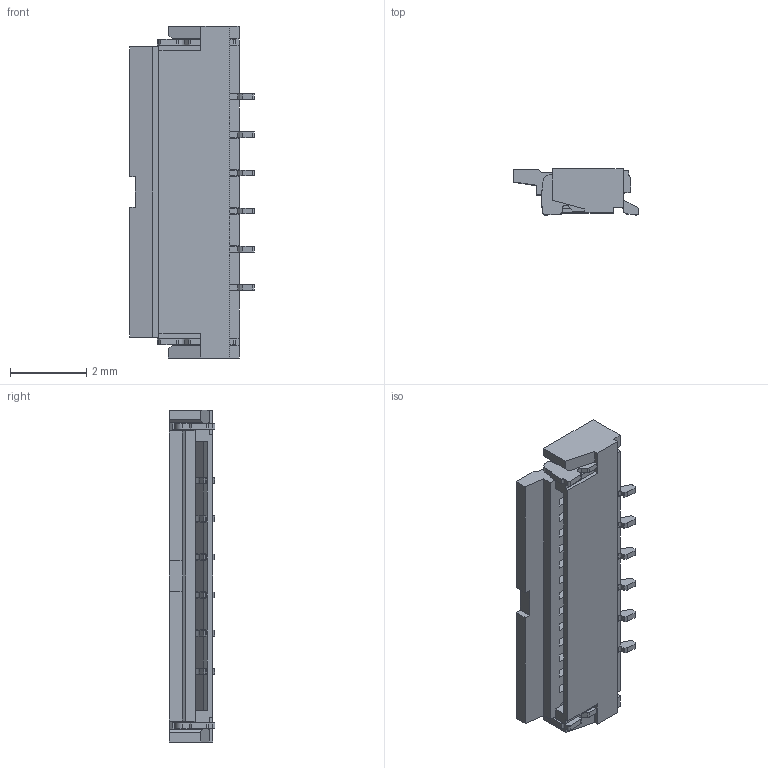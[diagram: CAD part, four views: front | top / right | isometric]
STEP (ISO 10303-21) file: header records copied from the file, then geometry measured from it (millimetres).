
FILE_DESCRIPTION((''),'2;1');
FILE_NAME('S-51590-006XX-XXX_ASM','2012-11-15T',('12216995'),(''),'PRO/ENGINEER BY PARAMETRIC TECHNOLOGY CORPORATION, 2010370','PRO/ENGINEER BY PARAMETRIC TECHNOLOGY CORPORATION, 2010370','');
FILE_SCHEMA(('CONFIG_CONTROL_DESIGN'));
Length unit declared in the file: millimetre
Products named in the file (1): S-51590-006XX-XXX_ASM
Bounding box: 3.27 x 1.2 x 8.7 mm (x, y, z)
Volume: 15.8 mm3; surface area: 142 mm2
Topology: 1 solids, 1 shells, 682 faces, 2184 edges, 1420 vertices
Faces by surface type: plane 469, cylinder 213
Entity records: 24092 total; most frequent: ORIENTED_EDGE 4368, CARTESIAN_POINT 4286, DIRECTION 4002, EDGE_CURVE 2184, VECTOR 1730, LINE 1730, VERTEX_POINT 1420, AXIS2_PLACEMENT_3D 1136
